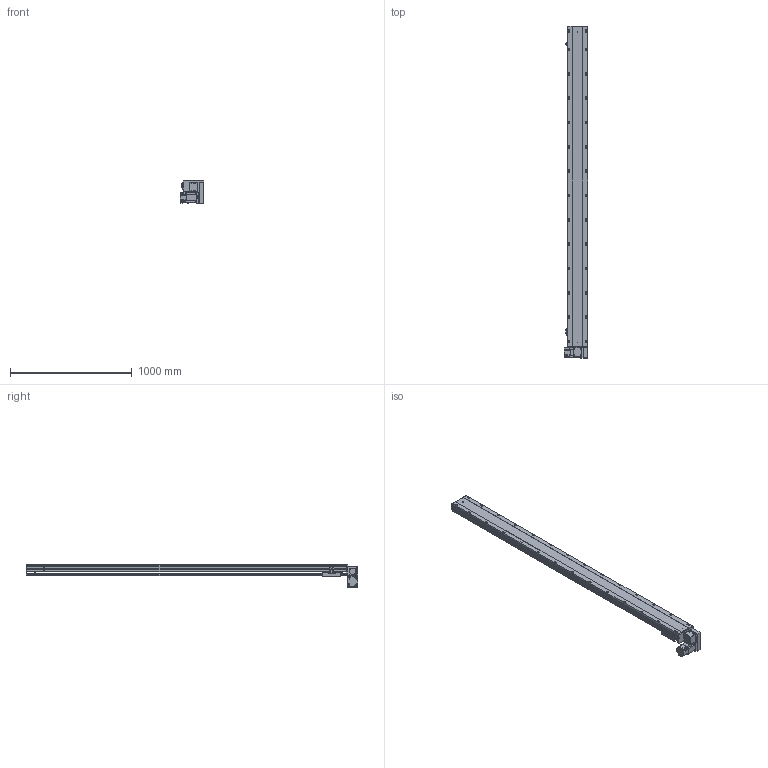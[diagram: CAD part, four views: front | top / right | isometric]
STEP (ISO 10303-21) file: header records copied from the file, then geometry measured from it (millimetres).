
FILE_DESCRIPTION (( 'STEP AP203' ), '1' );
FILE_NAME ('BTB17-L50-2350-LU-T75-C4.STEP', '2022-07-26T02:36:01', ( 'CXY' ), ( 'BT' ), 'SwSTEP 2.0', 'SolidWorks 2016', '' );
FILE_SCHEMA (( 'CONFIG_CONTROL_DESIGN' ));
Length unit declared in the file: millimetre
Products named in the file (10): T75; BTB17-L-04; BTB17-L-01; BTB17-L-02; BTB17-L-24; BTB17-L-23; BTB17-L-HZ; BTB17-L-菁釱_XD; BTB17-L-06; BTB17-L50-2350-LU-T75-C4
Assembly tree (12 placements, depth 2):
  BTB17-L50-2350-LU-T75-C4
    BTB17-L-菁釱_XD
    BTB17-L-01
    BTB17-L-04  x3
    BTB17-L-06
    BTB17-L-23  x2
    BTB17-L-24
    BTB17-L-HZ
    BTB17-L-02
    T75
Bounding box: 195.3 x 2729 x 186.5 mm (x, y, z)
Volume: 23297772.3 mm3; surface area: 2978018.1 mm2
Topology: 22 solids, 22 shells, 1714 faces, 4485 edges, 2824 vertices
Faces by surface type: plane 882, cylinder 624, cone 172, bspline 20, torus 16
Entity records: 44237 total; most frequent: CARTESIAN_POINT 8204, DIRECTION 7471, ORIENTED_EDGE 7074, EDGE_CURVE 3537, AXIS2_PLACEMENT_3D 2615, VERTEX_POINT 2292, VECTOR 2241, LINE 2241
